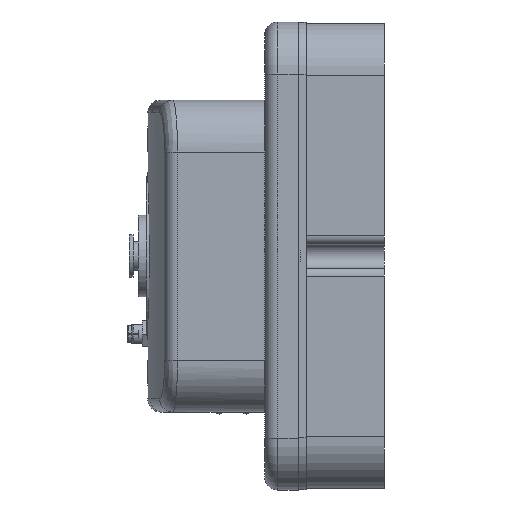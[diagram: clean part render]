
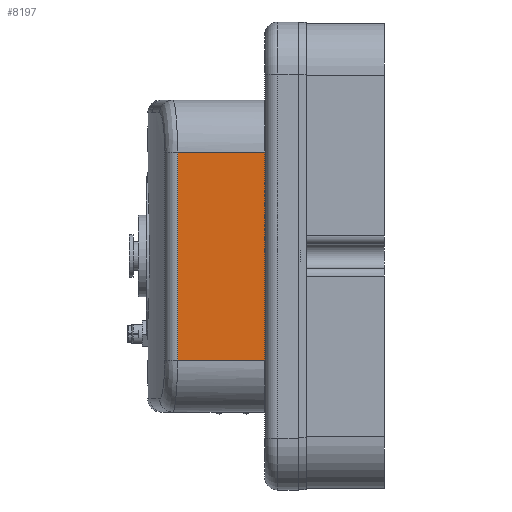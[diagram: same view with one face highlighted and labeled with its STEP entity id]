
A CAD part, left-side view. The second image highlights one B-rep face of the part: STEP entity #8197.
In plain terms, the highlighted planar face has unit normal (-1, 0, 0).
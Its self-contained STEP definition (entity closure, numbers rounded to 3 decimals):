
#436=LINE('',#12454,#1198);
#609=LINE('',#12958,#1371);
#610=LINE('',#12971,#1372);
#611=LINE('',#12973,#1373);
#1198=VECTOR('',#9794,1000.);
#1371=VECTOR('',#10329,1000.);
#1372=VECTOR('',#10332,1000.);
#1373=VECTOR('',#10333,1000.);
#2588=ORIENTED_EDGE('',*,*,#4562,.F.);
#2589=ORIENTED_EDGE('',*,*,#4563,.T.);
#2590=ORIENTED_EDGE('',*,*,#4560,.T.);
#2591=ORIENTED_EDGE('',*,*,#4321,.T.);
#4321=EDGE_CURVE('',#5447,#5448,#436,.T.);
#4560=EDGE_CURVE('',#5599,#5447,#609,.T.);
#4562=EDGE_CURVE('',#5600,#5448,#610,.T.);
#4563=EDGE_CURVE('',#5600,#5599,#611,.T.);
#5447=VERTEX_POINT('',#12449);
#5448=VERTEX_POINT('',#12453);
#5599=VERTEX_POINT('',#12959);
#5600=VERTEX_POINT('',#12972);
#6588=EDGE_LOOP('',(#2588,#2589,#2590,#2591));
#7254=FACE_BOUND('',#6588,.T.);
#7834=PLANE('',#8895);
#8197=ADVANCED_FACE('',(#7254),#7834,.F.);
#8895=AXIS2_PLACEMENT_3D('',#12970,#10330,#10331);
#9794=DIRECTION('',(0.,0.,1.));
#10329=DIRECTION('',(0.,-1.,0.));
#10330=DIRECTION('',(1.,0.,0.));
#10331=DIRECTION('',(0.,0.,-1.));
#10332=DIRECTION('',(0.,-1.,0.));
#10333=DIRECTION('',(0.,0.,-1.));
#12449=CARTESIAN_POINT('',(-100.,-45.,-40.));
#12453=CARTESIAN_POINT('',(-100.,-45.,40.));
#12454=CARTESIAN_POINT('',(-100.,-45.,-40.));
#12958=CARTESIAN_POINT('',(-100.,10.,-40.));
#12959=CARTESIAN_POINT('',(-100.,-11.523,-40.));
#12970=CARTESIAN_POINT('',(-100.,10.,-40.));
#12971=CARTESIAN_POINT('',(-100.,10.,40.));
#12972=CARTESIAN_POINT('',(-100.,-11.523,40.));
#12973=CARTESIAN_POINT('',(-100.,-11.523,-40.));
